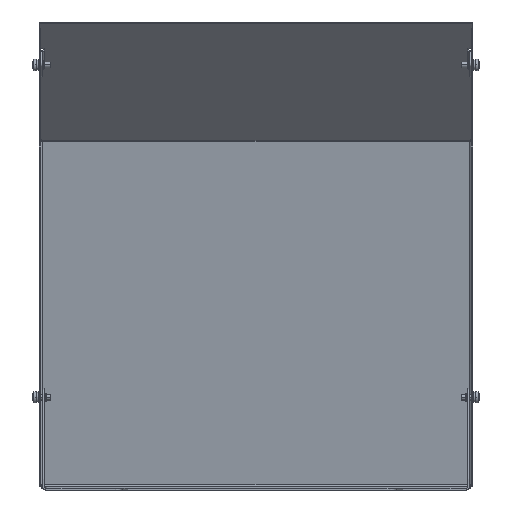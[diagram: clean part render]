
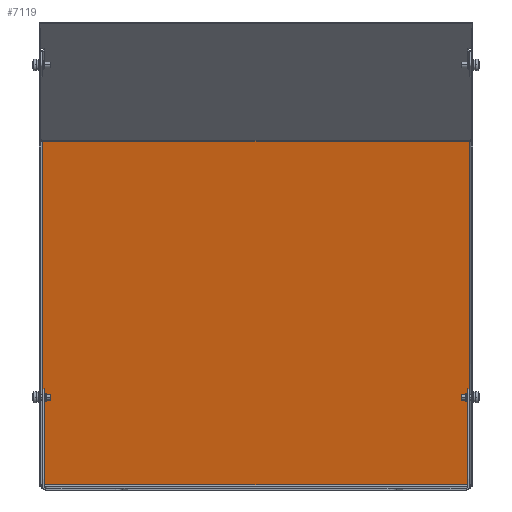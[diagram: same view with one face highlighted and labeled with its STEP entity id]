
A CAD part, front view. The second image highlights one B-rep face of the part: STEP entity #7119.
In plain terms, the highlighted planar face has unit normal (0, -0.985, -0.174).
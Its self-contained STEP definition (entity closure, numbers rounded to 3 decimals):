
#894=DIRECTION('',(-1.,0.,0.));
#895=VECTOR('',#894,380.);
#896=CARTESIAN_POINT('',(190.,-2.098,3.26));
#897=LINE('',#896,#895);
#898=DIRECTION('',(-1.,0.,0.));
#899=VECTOR('',#898,380.);
#900=CARTESIAN_POINT('',(190.,-55.974,308.808));
#901=LINE('',#900,#899);
#2407=CARTESIAN_POINT('',(-190.,-55.974,308.808));
#2409=DIRECTION('',(0.,0.174,-0.985));
#2410=VECTOR('',#2409,310.261);
#2411=CARTESIAN_POINT('',(-190.,-55.974,308.808));
#2412=LINE('',#2411,#2410);
#4490=DIRECTION('',(0.,0.174,-0.985));
#4491=VECTOR('',#4490,310.261);
#4492=CARTESIAN_POINT('',(190.,-55.974,308.808));
#4493=LINE('',#4492,#4491);
#4549=CARTESIAN_POINT('',(-190.,-2.098,3.26));
#4550=VERTEX_POINT('',#4549);
#4551=VERTEX_POINT('',#2407);
#4577=CARTESIAN_POINT('',(190.,-2.098,3.26));
#4579=VERTEX_POINT('',#4577);
#4581=CARTESIAN_POINT('',(190.,-55.974,308.808));
#4583=VERTEX_POINT('',#4581);
#7105=CARTESIAN_POINT('',(-190.5,-1.477,-0.26));
#7106=DIRECTION('',(0.,0.985,0.174));
#7107=DIRECTION('',(0.,-0.174,0.985));
#7108=AXIS2_PLACEMENT_3D('',#7105,#7106,#7107);
#7109=PLANE('',#7108);
#7111=ORIENTED_EDGE('',*,*,#7110,.T.);
#7113=ORIENTED_EDGE('',*,*,#7112,.F.);
#7114=ORIENTED_EDGE('',*,*,#7095,.F.);
#7116=ORIENTED_EDGE('',*,*,#7115,.T.);
#7117=EDGE_LOOP('',(#7111,#7113,#7114,#7116));
#7118=FACE_OUTER_BOUND('',#7117,.F.);
#7119=ADVANCED_FACE('',(#7118),#7109,.F.);
#7095=EDGE_CURVE('',#4583,#4551,#901,.T.);
#7110=EDGE_CURVE('',#4579,#4550,#897,.T.);
#7112=EDGE_CURVE('',#4551,#4550,#2412,.T.);
#7115=EDGE_CURVE('',#4583,#4579,#4493,.T.);
